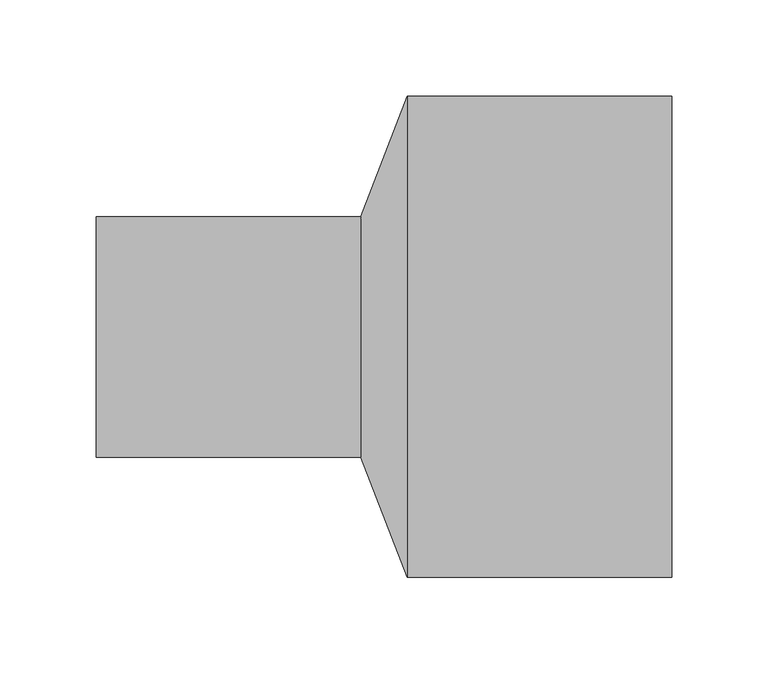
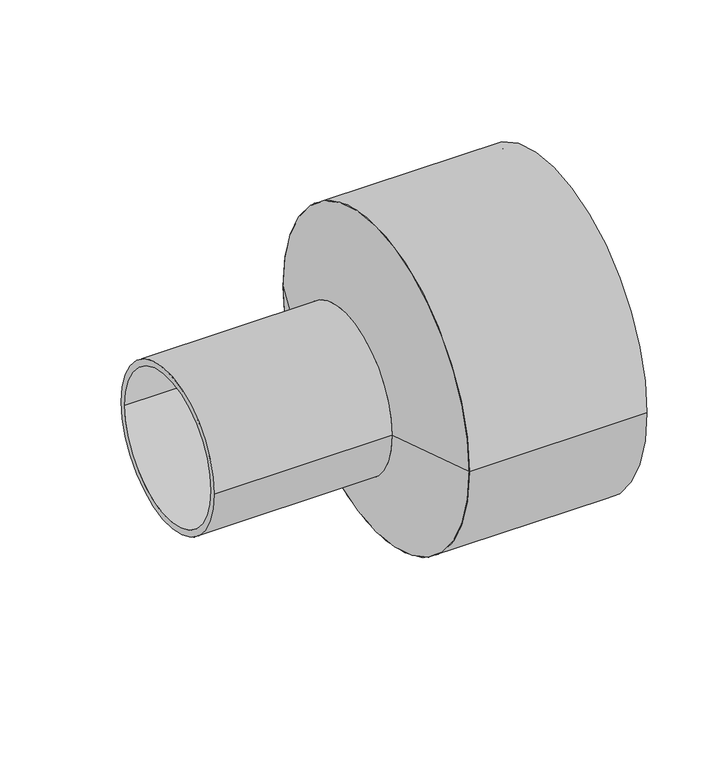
"""IFC4 building model written with IfcOpenShell, lengths in millimetres: pipe fitting geometry, EGB_VASEN_ PPR_Manguito reductor a tope WXRB110 : Manguito reductor a tope WXRB110."""

from ifc_helpers import new_model, si_unit, point, frame, origin, origin_2d, place, context, project, spatial, polyline, circle_curve, trimmed, segment, composite_curve, outline, extrude, source, transform, mapped, element, save
from ifc_brep_helpers import plane_surface, revolved_surface, advanced_brep


def pipe_fitting_38b247a4(model_context):
    return source(origin(), model_context, "Body", "SolidModel", [
        extrude(outline(composite_curve([segment(trimmed(circle_curve(origin_2d(), 125.0), [point((-125.0, 0.0))], [point((125.0, 0.0))], False, "CARTESIAN"), True, "CONTINUOUS"), segment(trimmed(circle_curve(origin_2d(), 125.0), [point((125.0, 0.0))], [point((-125.0, 0.0))], False, "CARTESIAN"), True, "CONTINUOUS")], self_intersect=False), holes=[composite_curve([segment(trimmed(circle_curve(origin_2d(), 120.0), [point((-120.0, 0.0))], [point((120.0, 0.0))], True, "CARTESIAN"), True, "CONTINUOUS"), segment(trimmed(circle_curve(origin_2d(), 120.0), [point((120.0, 0.0))], [point((-120.0, 0.0))], True, "CARTESIAN"), True, "CONTINUOUS")], self_intersect=False)]), frame((11.96, 0.0, 0.0), z_axis=(1.0, 0.0, 0.0), x_axis=(0.0, 1.0, 0.0)), (0.0, 0.0, 1.0), 137.54),
        extrude(outline(composite_curve([segment(trimmed(circle_curve(origin_2d(), 62.5), [point((-62.5, 0.0))], [point((62.5, 0.0))], False, "CARTESIAN"), True, "CONTINUOUS"), segment(trimmed(circle_curve(origin_2d(), 62.5), [point((62.5, 0.0))], [point((-62.5, 0.0))], False, "CARTESIAN"), True, "CONTINUOUS")], self_intersect=False), holes=[composite_curve([segment(trimmed(circle_curve(origin_2d(), 57.5), [point((-57.5, 0.0))], [point((57.5, 0.0))], True, "CARTESIAN"), True, "CONTINUOUS"), segment(trimmed(circle_curve(origin_2d(), 57.5), [point((57.5, 0.0))], [point((-57.5, 0.0))], True, "CARTESIAN"), True, "CONTINUOUS")], self_intersect=False)]), frame((-149.5, 0.0, 0.0), z_axis=(1.0, 0.0, 0.0), x_axis=(0.0, 1.0, 0.0)), (0.0, 0.0, 1.0), 137.54),
        advanced_brep(
        [(11.96, -125.0, 0.0), (11.96, 125.0, 0.0), (-11.96, -62.5, 0.0), (-11.96, 62.5, 0.0)],
        [
            (0, 1, circle_curve(frame((11.96, 0.0, 0.0), z_axis=(1.0, 0.0, 0.0), x_axis=(0.0, -1.0, 0.0)), 125.0)),
            (1, 0, circle_curve(frame((11.96, 0.0, 0.0), z_axis=(1.0, 0.0, 0.0), x_axis=(0.0, 1.0, 0.0)), 125.0)),
            (2, 3, circle_curve(frame((-11.96, 0.0, 0.0), z_axis=(-1.0, 0.0, 0.0), x_axis=(0.0, 1.0, 0.0)), 62.5)),
            (3, 2, circle_curve(frame((-11.96, 0.0, 0.0), z_axis=(-1.0, 0.0, 0.0), x_axis=(0.0, -1.0, 0.0)), 62.5)),
            (3, 1),
            (0, 2),
        ],
        [
            plane_surface(frame((11.96, 0.0, 0.0), z_axis=(1.0, 0.0, 0.0), x_axis=(0.0, 0.0, -1.0))),
            plane_surface(frame((-11.96, 0.0, 0.0), z_axis=(-1.0, 0.0, 0.0), x_axis=(0.0, 0.0, -1.0))),
            revolved_surface(polyline([(-11.96, 62.5, 0.0), (11.96, 125.0, 0.0)]), (-35.88, 0.0, 0.0), (1.0, 0.0, 0.0)),
            revolved_surface(polyline([(-11.96, -62.5, 0.0), (11.96, -125.0, 0.0)]), (-35.88, 0.0, 0.0), (1.0, 0.0, 0.0)),
        ],
        [
            (0, [[1, 2]]),
            (1, [[3, 4]]),
            (2, [[-4, 5, -1, 6]]),
            (3, [[-3, -6, -2, -5]]),
        ],
    ),
    ])


if __name__ == "__main__":
    model = new_model("IFC4")
    model_context = context("Model", 3, world=origin())
    ifc_project = project(units=[si_unit("LENGTHUNIT", "METRE", prefix="MILLI")], contexts=[model_context])
    site = spatial("IfcSite", under=ifc_project)
    building = spatial("IfcBuilding", under=site)
    placement = place(None, origin())
    pipe_fitting_shape = pipe_fitting_38b247a4(model_context)
    element("IfcPipeFitting", 1, ObjectType="EGB_VASEN_ PPR_Manguito reductor a tope WXRB110 : Manguito reductor a tope WXRB110", at=placement, inside=building, context=model_context, shape_type="MappedRepresentation", body=[
        mapped(pipe_fitting_shape, transform((0.0, 0.0, 0.0), x_axis=(1.0, 0.0, 0.0), y_axis=(0.0, 1.0, 0.0), z_axis=(0.0, 0.0, 1.0))),
    ])
    save(model, "model.ifc")
